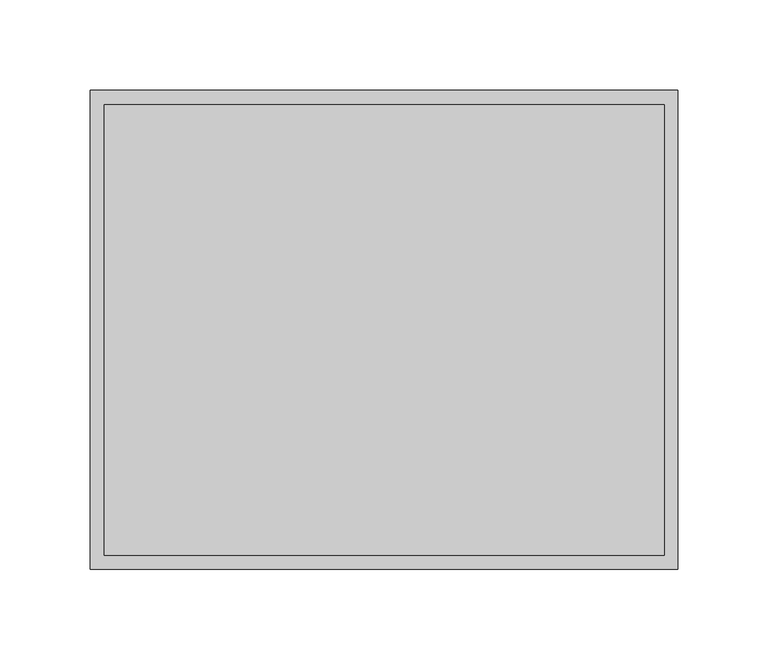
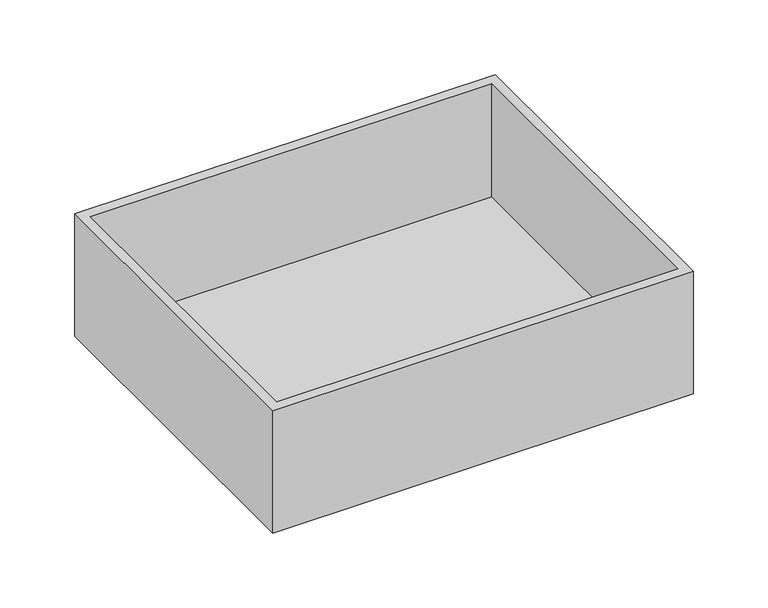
"""IFC4 building model written with IfcOpenShell, lengths in millimetres: proxy geometry, Modelos genéricos 130 : Modelos genéricos 29."""

import ifcopenshell
import ifcopenshell.guid

model = None  # the IFC model being written
_history = None  # IfcOwnerHistory: only IFC2X3 demands one
_inside = {}  # id of a spatial element -> (the spatial element, [elements in it])
_under = {}  # id of a project, library or spatial element -> (it, [spatial elements below it])
_declared = {}  # id of a project -> (the project, [libraries it declares])
_typed = {}  # id of a type object -> (the type object, [elements of that type])
_made_of = {}  # id of a material, layer set ... -> (it, [elements and type objects made of it])


def new_model(schema):
    """Start an empty IFC model of exactly this schema.

    Asked for "IFC4X3", IfcOpenShell would pick the latest addendum, in which some entities
    have other attributes; the version numbers below select the first issue.
    IFC2X3 requires an IfcOwnerHistory on every rooted entity: one is made here for all.
    """
    global model, _history
    if schema == "IFC4X3":
        model = ifcopenshell.file(schema_version=(4, 3, 0, 0))
    else:
        model = ifcopenshell.file(schema=schema)
    _inside.clear()
    _under.clear()
    _declared.clear()
    _typed.clear()
    _made_of.clear()
    _history = None
    if model.schema == "IFC2X3":
        org = make("IfcOrganization", Name="unknown")
        user = make(
            "IfcPersonAndOrganization",
            ThePerson=make("IfcPerson", FamilyName="unknown"),
            TheOrganization=org,
        )
        app = make(
            "IfcApplication",
            ApplicationDeveloper=org,
            Version="unknown",
            ApplicationFullName="unknown",
            ApplicationIdentifier="unknown",
        )
        _history = make(
            "IfcOwnerHistory",
            OwningUser=user,
            OwningApplication=app,
            ChangeAction="ADDED",
            CreationDate=0,
        )
    return model


def make(cls, **values):
    """One entity of the class cls with the attributes given. An attribute that is None is left unset."""
    return model.create_entity(
        cls, **{name: value for name, value in values.items() if value is not None}
    )


def rooted(cls, **values):
    """An entity with a GlobalId (a new one), such as an element, a storey or a relation."""
    return make(cls, GlobalId=ifcopenshell.guid.new(), OwnerHistory=_history, **values)


def si_unit(unit_type, name, prefix=None):
    """IfcSIUnit, for example si_unit("LENGTHUNIT", "METRE", prefix="MILLI")."""
    return make("IfcSIUnit", UnitType=unit_type, Prefix=prefix, Name=name)


def assignment(units):
    """IfcUnitAssignment: the units of a project."""
    return None if units is None else make("IfcUnitAssignment", Units=units)


def point(xyz):
    """IfcCartesianPoint."""
    return None if xyz is None else make("IfcCartesianPoint", Coordinates=xyz)


def direction(xyz):
    """IfcDirection."""
    return None if xyz is None else make("IfcDirection", DirectionRatios=xyz)


def frame(location, z_axis=None, x_axis=None):
    """IfcAxis2Placement3D, a coordinate frame: its origin and axes. An axis left out is left unset."""
    return make(
        "IfcAxis2Placement3D",
        Location=point(location),
        Axis=direction(z_axis),
        RefDirection=direction(x_axis),
    )


def origin():
    """The frame at (0, 0, 0) with its axes left unset."""
    return frame((0.0, 0.0, 0.0))


def place(relative_to, where):
    """IfcLocalPlacement: puts the frame where relative to a parent placement (None: the world)."""
    return make(
        "IfcLocalPlacement", PlacementRelTo=relative_to, RelativePlacement=where
    )


def context(
    kind, dimensions, precision=None, world=None, true_north=None, identifier=None
):
    """IfcGeometricRepresentationContext, for example the 3D "Model" context."""
    return make(
        "IfcGeometricRepresentationContext",
        ContextIdentifier=identifier,
        ContextType=kind,
        CoordinateSpaceDimension=dimensions,
        Precision=precision,
        WorldCoordinateSystem=world,
        TrueNorth=true_north,
    )


def project(units=None, contexts=None):
    """IfcProject with its units and contexts."""
    return rooted(
        "IfcProject",
        Name="project",
        RepresentationContexts=contexts,
        UnitsInContext=assignment(units),
    )


def spatial(cls, under=None, at=None, **own):
    """A site, building, storey or space (cls), placed at a placement, below another one or the project."""
    s = rooted(cls, ObjectPlacement=at, **own)
    if under is not None:
        _under.setdefault(under.id(), (under, []))[1].append(s)
    return s


def faces_of(points, faces, orient=None, outer=None):
    """IfcFace entities. A face is a list of loops; a loop is a list of indices into points, from 0.

    orient and outer hold one flag for each loop. By default every Orientation is true, the
    first loop of a face is its IfcFaceOuterBound and the others are IfcFaceBound.
    """
    made = []
    for i, loops in enumerate(faces):
        bounds = []
        for j, loop in enumerate(loops):
            is_outer = j == 0 if outer is None else outer[i][j]
            bounds.append(
                make(
                    "IfcFaceOuterBound" if is_outer else "IfcFaceBound",
                    Bound=make("IfcPolyLoop", Polygon=[points[k] for k in loop]),
                    Orientation=True if orient is None else orient[i][j],
                )
            )
        made.append(make("IfcFace", Bounds=bounds))
    return made


def faceted_brep(points, faces, orient=None, outer=None, voids=None):
    """IfcFacetedBrep: a solid bounded by flat faces; with voids (closed shells), ...WithVoids."""
    shared = [point(p) for p in points]
    hull = make("IfcClosedShell", CfsFaces=faces_of(shared, faces, orient, outer))
    if voids is None:
        return make("IfcFacetedBrep", Outer=hull)
    return make(
        "IfcFacetedBrepWithVoids",
        Outer=hull,
        Voids=[
            make(cls, CfsFaces=faces_of(shared, fs, o, b)) for cls, fs, o, b in voids
        ],
    )


def shape(context_of_items, identifier, shape_type, items):
    """IfcShapeRepresentation: the items that make up one representation, for example the "Body"."""
    return make(
        "IfcShapeRepresentation",
        ContextOfItems=context_of_items,
        RepresentationIdentifier=identifier,
        RepresentationType=shape_type,
        Items=items,
    )


def source(mapping_origin, context_of_items, identifier, shape_type, items):
    """IfcRepresentationMap: a shape defined once, which mapped items show again and again."""
    return make(
        "IfcRepresentationMap",
        MappingOrigin=mapping_origin,
        MappedRepresentation=shape(context_of_items, identifier, shape_type, items),
    )


def transform(
    local_origin,
    x_axis=None,
    y_axis=None,
    z_axis=None,
    scale=None,
    scale2=None,
    scale3=None,
    uniform=True,
):
    """IfcCartesianTransformationOperator3D, or its non-uniform kind. x_axis, y_axis, z_axis: its Axis1, 2, 3."""
    if uniform:
        return make(
            "IfcCartesianTransformationOperator3D",
            Axis1=direction(x_axis),
            Axis2=direction(y_axis),
            LocalOrigin=point(local_origin),
            Scale=scale,
            Axis3=direction(z_axis),
        )
    return make(
        "IfcCartesianTransformationOperator3DnonUniform",
        Axis1=direction(x_axis),
        Axis2=direction(y_axis),
        LocalOrigin=point(local_origin),
        Scale=scale,
        Axis3=direction(z_axis),
        Scale2=scale2,
        Scale3=scale3,
    )


def mapped(mapping_source, mapping_target):
    """IfcMappedItem: shows the shape of a source again, moved by a transform."""
    return make(
        "IfcMappedItem", MappingSource=mapping_source, MappingTarget=mapping_target
    )


def made_of(thing, what):
    """Note that an element or type object is made of a material, layer set ...; save() writes the relation."""
    if what is not None:
        _made_of.setdefault(what.id(), (what, []))[1].append(thing)
    return thing


def element(
    cls,
    number,
    at=None,
    inside=None,
    cuts=None,
    type_object=None,
    material=None,
    context=None,
    identifier="Body",
    shape_type=None,
    held_by="IfcProductDefinitionShape",
    body=None,
    shapes=None,
    **own,
):
    """One element of the class cls, such as IfcWall. Its Tag is "e" and its number.

    at: its placement. inside: the storey or other place that contains it. cuts: it is an
    opening in that element (IfcRelVoidsElement). A single representation is given by context,
    identifier, shape_type and body (its items); several are given by shapes. held_by: the class
    of the entity that holds the representations. save() writes the other relations.
    """
    e = rooted(cls, Tag="e%d" % number, ObjectPlacement=at, **own)
    if body is not None:
        shapes = [shape(context, identifier, shape_type, body)]
    if shapes is not None:
        e.Representation = make(held_by, Representations=shapes)
    if inside is not None:
        _inside.setdefault(inside.id(), (inside, []))[1].append(e)
    if cuts is not None:
        rooted(
            "IfcRelVoidsElement", RelatingBuildingElement=cuts, RelatedOpeningElement=e
        )
    if type_object is not None:
        _typed.setdefault(type_object.id(), (type_object, []))[1].append(e)
    return made_of(e, material)


def aggregate(whole, parts):
    """IfcRelAggregates: a whole, such as a stair, and the parts it consists of."""
    return rooted("IfcRelAggregates", RelatingObject=whole, RelatedObjects=parts)


def save(model, path):
    """Write the relations noted so far, then the file.

    IfcRelAggregates (storeys below a building ...), IfcRelContainedInSpatialStructure (elements
    in a storey), IfcRelDefinesByType, IfcRelAssociatesMaterial and IfcRelDeclares: one each for
    every whole, place, type object, material and project.
    """
    for whole, parts in _under.values():
        aggregate(whole, parts)
    for where, things in _inside.values():
        rooted(
            "IfcRelContainedInSpatialStructure",
            RelatedElements=things,
            RelatingStructure=where,
        )
    for kind, things in _typed.values():
        rooted("IfcRelDefinesByType", RelatedObjects=things, RelatingType=kind)
    for what, things in _made_of.values():
        rooted("IfcRelAssociatesMaterial", RelatedObjects=things, RelatingMaterial=what)
    for by, libraries in _declared.values():
        rooted("IfcRelDeclares", RelatingContext=by, RelatedDefinitions=libraries)
    model.write(path)


def generic_models_e0297460(model_context):
    return source(origin(), model_context, "Body", "Brep", [
        faceted_brep([(-10011.8745256, -6352.0417559, 1086.3966943), (-10336.8745256, -6352.0417559, 1086.3966943), (-10336.8745256, -6617.0417559, 1086.3966943), (-10011.8745256, -6617.0417559, 1086.3966943), (-10019.2173981, -6359.9029176, 1086.3966943), (-10019.2173981, -6609.2469974, 1086.3966943), (-10329.2173981, -6609.2469974, 1086.3966943), (-10329.2173981, -6359.9029176, 1086.3966943), (-10011.8745256, -6352.0417559, 986.3966943), (-10011.8745256, -6617.0417559, 986.3966943), (-10336.8745256, -6617.0417559, 986.3966943), (-10336.8745256, -6352.0417559, 986.3966943), (-10019.2173981, -6359.9029176, 993.8583576), (-10019.2173981, -6609.2469974, 993.8583576), (-10329.2173981, -6609.2469974, 993.8583576), (-10329.2173981, -6359.9029176, 993.8583576)], [[[0, 1, 2, 3], [4, 5, 6, 7]], [[8, 9, 10, 11]], [[0, 3, 9, 8]], [[3, 2, 10, 9]], [[2, 1, 11, 10]], [[1, 0, 8, 11]], [[12, 13, 5, 4]], [[13, 14, 6, 5]], [[14, 15, 7, 6]], [[15, 12, 4, 7]], [[12, 15, 14, 13]]]),
    ])


if __name__ == "__main__":
    model = new_model("IFC4")
    model_context = context("Model", 3, world=origin())
    ifc_project = project(units=[si_unit("LENGTHUNIT", "METRE", prefix="MILLI")], contexts=[model_context])
    site = spatial("IfcSite", under=ifc_project)
    building = spatial("IfcBuilding", under=site)
    placement = place(None, origin())
    generic_models_shape = generic_models_e0297460(model_context)
    element("IfcBuildingElementProxy", 1, Name="Modelos genéricos 130 : Modelos genéricos 29", ObjectType="Modelos genéricos 130 : Modelos genéricos 29", at=placement, inside=building, context=model_context, shape_type="MappedRepresentation", body=[
        mapped(generic_models_shape, transform((0.0, 0.0, 0.0), x_axis=(1.0, 0.0, 0.0), y_axis=(0.0, 1.0, 0.0), z_axis=(0.0, 0.0, 1.0))),
    ])
    save(model, "model.ifc")
